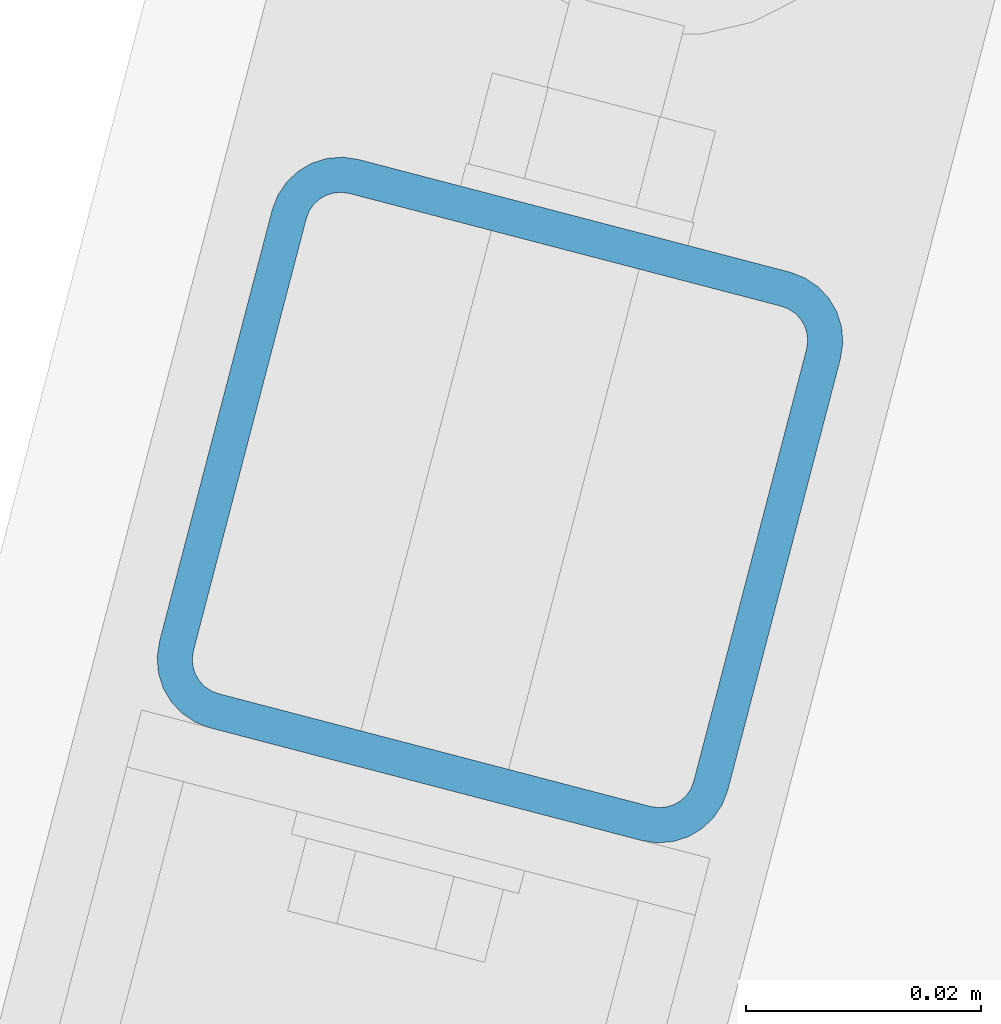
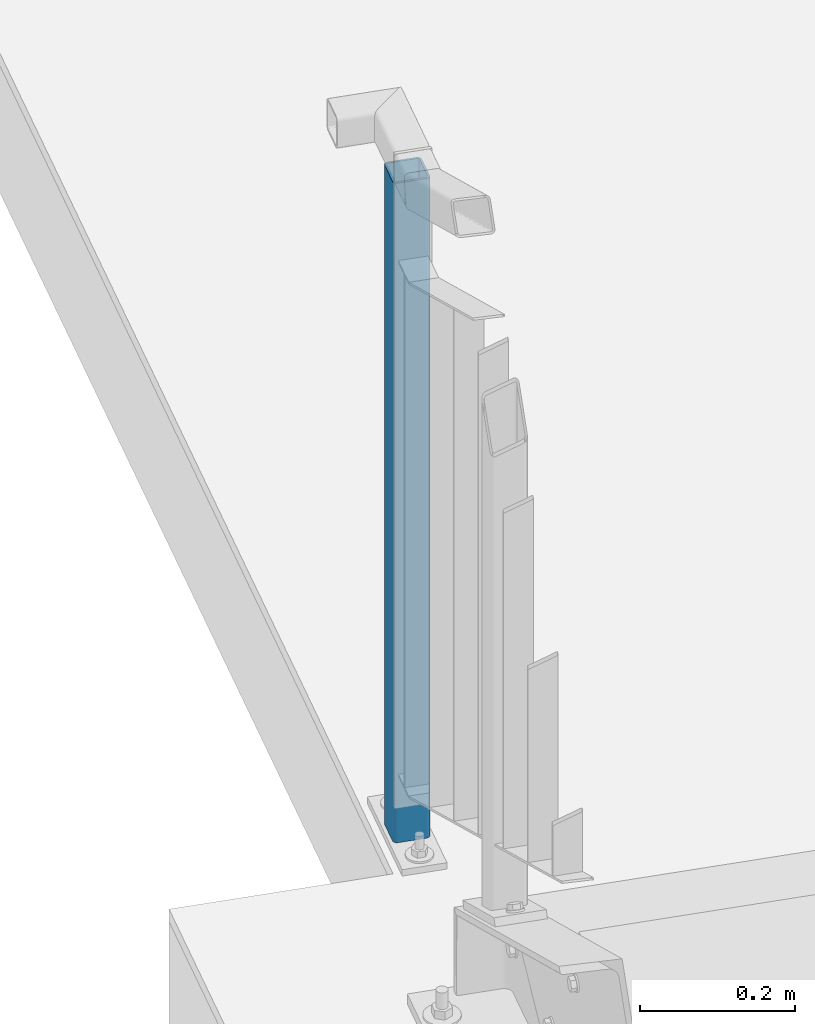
# One storey, part 2 of 169: 1 column, 1 element without a shape of its own.
"""IFC2X3 building model written with IfcOpenShell, lengths in millimetres."""

from ifc_helpers import new_model, si_unit, frame, origin_with_axes, origin_2d_with_axis, place, context, subcontext, project, spatial, hollow_rectangle, extrude, clip, halfspace, material, type_object, element, aggregate, save


model = new_model("IFC2X3")

# Units and contexts
model_context = context("Model", 3, precision=1e-05, world=origin_with_axes())
body_context = subcontext(model_context, "Body", "Model", "MODEL_VIEW")
ifc_project = project(units=[si_unit("LENGTHUNIT", "METRE", prefix="MILLI"), si_unit("AREAUNIT", "SQUARE_METRE"), si_unit("VOLUMEUNIT", "CUBIC_METRE"), si_unit("MASSUNIT", "GRAM", prefix="KILO"), si_unit("TIMEUNIT", "SECOND"), si_unit("PLANEANGLEUNIT", "RADIAN"), si_unit("SOLIDANGLEUNIT", "STERADIAN"), si_unit("THERMODYNAMICTEMPERATUREUNIT", "DEGREE_CELSIUS"), si_unit("LUMINOUSINTENSITYUNIT", "LUMEN")], contexts=[model_context])

# Site, building, storey
site_placement = place(None, origin_with_axes())
site = spatial("IfcSite", under=ifc_project, at=site_placement, Name="Undefined", CompositionType="ELEMENT")
building_placement = place(site_placement, origin_with_axes())
building = spatial("IfcBuilding", under=site, at=building_placement, Name="Undefined", CompositionType="ELEMENT")
storey_placement = place(building_placement, origin_with_axes())
storey = spatial("IfcBuildingStorey", under=building, at=storey_placement, Name="Undefined", CompositionType="ELEMENT", Elevation=0.0)

# Assembly, column
assembly_placement = place(storey_placement, origin_with_axes())
assembly = element("IfcElementAssembly", 1, at=assembly_placement, inside=storey, Name="Steel Assembly", AssemblyPlace="NOTDEFINED", PredefinedType="RIGID_FRAME")
ifc_material = material(Name="STEEL/S235")
column_type = type_object("IfcColumnType", Name="SHS50*3", PredefinedType="NOTDEFINED")
column_placement = place(assembly_placement, frame((-10077.9514678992, 21622.7667128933, 12562.4183762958), z_axis=(0.0, 0.0, 1.0), x_axis=(0.967563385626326, -0.252628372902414, 0.0)))
column = element("IfcColumn", 2, at=column_placement, type_object=column_type, material=ifc_material, Name="STANCHION", ObjectType="SHS50*3", context=body_context, shape_type="Clipping", body=[
    clip(clip(extrude(hollow_rectangle(XDim=50.0, YDim=50.0, WallThickness=3.0, InnerFilletRadius=3.0, OuterFilletRadius=6.0, at=origin_2d_with_axis()), frame((0.0, 0.0, 1053.00000003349), z_axis=(-2.54700353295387e-10, 0.0, -1.0), x_axis=(0.0, 1.0, 0.0)), (0.0, 0.0, 1.0), 1040.0), halfspace(frame((1000.00000000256, -1.19689502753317e-09, 1053.00000003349), z_axis=(-2.54700353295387e-10, 0.0, -1.0), x_axis=(0.0, 1.0, 0.0)), True)), halfspace(frame((-24.9999999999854, -1.09139364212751e-11, 12.9999999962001), z_axis=(0.0, 0.0, 1.0), x_axis=(0.0, 1.0, 0.0)), True)),
])
aggregate(assembly, [column])

save(model, "model.ifc")
